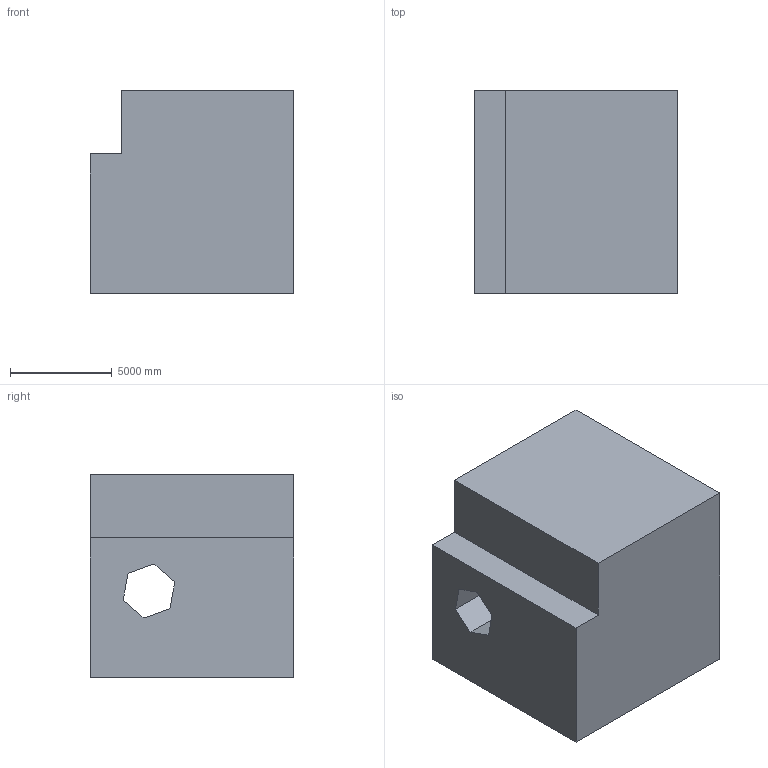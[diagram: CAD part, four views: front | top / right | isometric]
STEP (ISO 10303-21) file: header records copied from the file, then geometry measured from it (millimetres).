
FILE_DESCRIPTION (( 'STEP AP203' ), '1' );
FILE_NAME ('1179.STEP', '2022-08-18T13:04:23', ( 'user' ), ( '' ), 'SwSTEP 2.0', 'SolidWorks 2021', '' );
FILE_SCHEMA (( 'CONFIG_CONTROL_DESIGN' ));
Length unit declared in the file: centimetre
Products named in the file (1): 1179
Bounding box: 10000 x 10000 x 10000 mm (x, y, z)
Volume: 904602528542.1 mm3; surface area: 661848142 mm2
Topology: 1 solids, 1 shells, 14 faces, 36 edges, 24 vertices
Faces by surface type: plane 14
Entity records: 501 total; most frequent: CARTESIAN_POINT 75, ORIENTED_EDGE 72, DIRECTION 66, EDGE_CURVE 36, VECTOR 36, LINE 36, VERTEX_POINT 24, EDGE_LOOP 16
